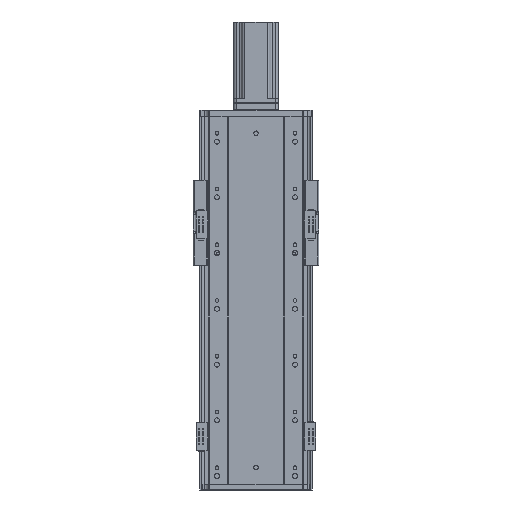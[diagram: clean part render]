
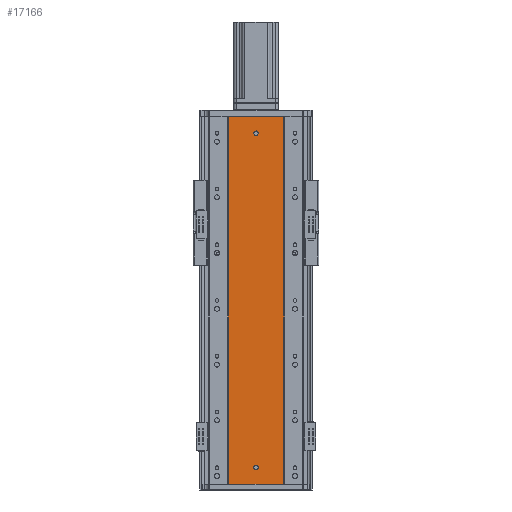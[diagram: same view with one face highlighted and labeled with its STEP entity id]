
A CAD part, front view. The second image highlights one B-rep face of the part: STEP entity #17166.
In plain terms, the highlighted planar face has unit normal (0, -1, 0).
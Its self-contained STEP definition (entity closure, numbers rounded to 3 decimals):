
#894 = CARTESIAN_POINT ( 'NONE',  ( 136.47, 79.476, 34. ) ) ;
#930 = CARTESIAN_POINT ( 'NONE',  ( 136.47, 79.476, 26. ) ) ;
#936 = CARTESIAN_POINT ( 'NONE',  ( 136.47, 79.476, 634. ) ) ;
#937 = CARTESIAN_POINT ( 'NONE',  ( 136.47, 79.476, 626. ) ) ;
#1963 = AXIS2_PLACEMENT_3D ( 'NONE', #33168, #33212, #33217 ) ;
#2513 = AXIS2_PLACEMENT_3D ( 'NONE', #26922, #26928, #26923 ) ;
#2538 = AXIS2_PLACEMENT_3D ( 'NONE', #26990, #26967, #26975 ) ;
#2760 = AXIS2_PLACEMENT_3D ( 'NONE', #30279, #30301, #30267 ) ;
#2778 = AXIS2_PLACEMENT_3D ( 'NONE', #30275, #30285, #30287 ) ;
#4183 = B_SPLINE_CURVE_WITH_KNOTS ( 'NONE', 3,
 ( #30387, #30366, #30375, #30357 ),
 .UNSPECIFIED., .F., .F.,
 ( 4, 4 ),
 ( 0., 1. ),
 .UNSPECIFIED. ) ;
#4184 = B_SPLINE_CURVE_WITH_KNOTS ( 'NONE', 3,
 ( #30429, #30403, #30418, #30400 ),
 .UNSPECIFIED., .F., .F.,
 ( 4, 4 ),
 ( 0., 1. ),
 .UNSPECIFIED. ) ;
#10608 = ORIENTED_EDGE ( 'NONE', *, *, #32108, .F. ) ;
#10609 = ORIENTED_EDGE ( 'NONE', *, *, #32133, .F. ) ;
#10621 = ORIENTED_EDGE ( 'NONE', *, *, #32140, .T. ) ;
#10634 = ORIENTED_EDGE ( 'NONE', *, *, #32098, .F. ) ;
#10648 = ORIENTED_EDGE ( 'NONE', *, *, #32103, .T. ) ;
#10661 = ORIENTED_EDGE ( 'NONE', *, *, #31207, .F. ) ;
#10682 = ORIENTED_EDGE ( 'NONE', *, *, #32155, .F. ) ;
#10703 = ORIENTED_EDGE ( 'NONE', *, *, #31217, .F. ) ;
#15600 = VERTEX_POINT ( 'NONE', #894 ) ;
#15603 = VERTEX_POINT ( 'NONE', #936 ) ;
#15626 = VERTEX_POINT ( 'NONE', #937 ) ;
#15645 = VERTEX_POINT ( 'NONE', #930 ) ;
#17166 = ADVANCED_FACE ( 'NONE', ( #38226, #38262, #38227 ), #33216, .F. ) ;
#21182 = CIRCLE ( 'NONE', #2538, 4. ) ;
#21213 = CIRCLE ( 'NONE', #2513, 4. ) ;
#22833 = VERTEX_POINT ( 'NONE', #39430 ) ;
#22901 = VERTEX_POINT ( 'NONE', #39518 ) ;
#22941 = VERTEX_POINT ( 'NONE', #39523 ) ;
#22973 = VERTEX_POINT ( 'NONE', #39492 ) ;
#26922 = CARTESIAN_POINT ( 'NONE',  ( 136.47, 79.476, 30. ) ) ;
#26923 = DIRECTION ( 'NONE',  ( 0., 0., -1. ) ) ;
#26928 = DIRECTION ( 'NONE',  ( 0., -1., 0. ) ) ;
#26967 = DIRECTION ( 'NONE',  ( 0., -1., 0. ) ) ;
#26975 = DIRECTION ( 'NONE',  ( 0., 0., -1. ) ) ;
#26990 = CARTESIAN_POINT ( 'NONE',  ( 136.47, 79.476, 630. ) ) ;
#29220 = CIRCLE ( 'NONE', #2778, 4. ) ;
#29234 = CIRCLE ( 'NONE', #2760, 4. ) ;
#29243 = LINE ( 'NONE', #30255, #29250 ) ;
#29250 = VECTOR ( 'NONE', #30284, 1000. ) ;
#29302 = LINE ( 'NONE', #30363, #29305 ) ;
#29305 = VECTOR ( 'NONE', #30359, 1000. ) ;
#30255 = CARTESIAN_POINT ( 'NONE',  ( 0., 79.476, 0. ) ) ;
#30267 = DIRECTION ( 'NONE',  ( 0., 0., -1. ) ) ;
#30275 = CARTESIAN_POINT ( 'NONE',  ( 136.47, 79.476, 630. ) ) ;
#30279 = CARTESIAN_POINT ( 'NONE',  ( 136.47, 79.476, 30. ) ) ;
#30284 = DIRECTION ( 'NONE',  ( 1., 0., 0. ) ) ;
#30285 = DIRECTION ( 'NONE',  ( 0., -1., 0. ) ) ;
#30287 = DIRECTION ( 'NONE',  ( 0., 0., -1. ) ) ;
#30301 = DIRECTION ( 'NONE',  ( 0., -1., 0. ) ) ;
#30357 = CARTESIAN_POINT ( 'NONE',  ( 86.97, 79.476, 0. ) ) ;
#30359 = DIRECTION ( 'NONE',  ( 1., 0., 0. ) ) ;
#30363 = CARTESIAN_POINT ( 'NONE',  ( 0., 79.476, 660. ) ) ;
#30366 = CARTESIAN_POINT ( 'NONE',  ( 86.97, 79.476, 440. ) ) ;
#30375 = CARTESIAN_POINT ( 'NONE',  ( 86.97, 79.476, 220. ) ) ;
#30387 = CARTESIAN_POINT ( 'NONE',  ( 86.97, 79.476, 660. ) ) ;
#30400 = CARTESIAN_POINT ( 'NONE',  ( 185.97, 79.476, 0. ) ) ;
#30403 = CARTESIAN_POINT ( 'NONE',  ( 185.97, 79.476, 440. ) ) ;
#30418 = CARTESIAN_POINT ( 'NONE',  ( 185.97, 79.476, 220. ) ) ;
#30429 = CARTESIAN_POINT ( 'NONE',  ( 185.97, 79.476, 660. ) ) ;
#31207 = EDGE_CURVE ( 'NONE', #15600, #15645, #21213, .T. ) ;
#31217 = EDGE_CURVE ( 'NONE', #15603, #15626, #21182, .T. ) ;
#32098 = EDGE_CURVE ( 'NONE', #15645, #15600, #29234, .T. ) ;
#32103 = EDGE_CURVE ( 'NONE', #22941, #22901, #29243, .T. ) ;
#32108 = EDGE_CURVE ( 'NONE', #15626, #15603, #29220, .T. ) ;
#32133 = EDGE_CURVE ( 'NONE', #22833, #22973, #29302, .T. ) ;
#32140 = EDGE_CURVE ( 'NONE', #22833, #22941, #4183, .T. ) ;
#32155 = EDGE_CURVE ( 'NONE', #22973, #22901, #4184, .T. ) ;
#33168 = CARTESIAN_POINT ( 'NONE',  ( 0., 79.476, 660. ) ) ;
#33212 = DIRECTION ( 'NONE',  ( 0., 1., 0. ) ) ;
#33216 = PLANE ( 'NONE',  #1963 ) ;
#33217 = DIRECTION ( 'NONE',  ( 0., 0., 1. ) ) ;
#34404 = EDGE_LOOP ( 'NONE', ( #10648, #10682, #10609, #10621 ) ) ;
#34445 = EDGE_LOOP ( 'NONE', ( #10608, #10703 ) ) ;
#34447 = EDGE_LOOP ( 'NONE', ( #10634, #10661 ) ) ;
#38226 = FACE_BOUND ( 'NONE', #34445, .T. ) ;
#38227 = FACE_OUTER_BOUND ( 'NONE', #34404, .T. ) ;
#38262 = FACE_BOUND ( 'NONE', #34447, .T. ) ;
#39430 = CARTESIAN_POINT ( 'NONE',  ( 86.97, 79.476, 660. ) ) ;
#39492 = CARTESIAN_POINT ( 'NONE',  ( 185.97, 79.476, 660. ) ) ;
#39518 = CARTESIAN_POINT ( 'NONE',  ( 185.97, 79.476, 0. ) ) ;
#39523 = CARTESIAN_POINT ( 'NONE',  ( 86.97, 79.476, 0. ) ) ;
